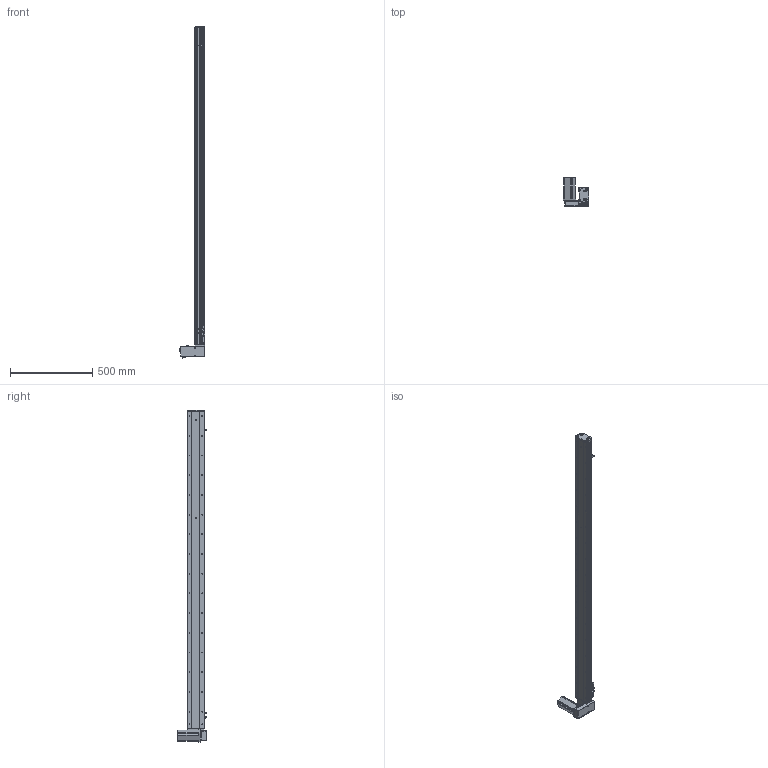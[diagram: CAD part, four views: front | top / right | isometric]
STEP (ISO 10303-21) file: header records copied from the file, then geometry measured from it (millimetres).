
FILE_DESCRIPTION (( 'STEP AP214' ), '1' );
FILE_NAME ('KSD100B-S1750-MRD-CM.STEP', '2019-11-11T08:58:39', ( '微软用户' ), ( '微软中国' ), 'SwSTEP 2.0', 'SolidWorks 2014', '' );
FILE_SCHEMA (( 'AUTOMOTIVE_DESIGN' ));
Length unit declared in the file: millimetre
Products named in the file (12): 悵誘欶奻狟殏; 100宽马达安装板连板上下折丝杆同步带; 台达ECMA－C20604AS伺服电机; U倰嫖萇EEㄜSX672; 覜茼え100遵圉猾敕; 100宽防尘板1750行程-同步带; 100宽马达安装板同步带右; 100宽同步带安装板半封闭; 100宽马达安装板同步带; 100遵傷啣肮祭湍; 100宽底板半封闭同步带1750行程; KSD100B-S1750-MRD-CM
Assembly tree (13 placements, depth 2):
  KSD100B-S1750-MRD-CM
    100宽底板半封闭同步带1750行程
    100遵傷啣肮祭湍
    100宽马达安装板同步带
    100宽同步带安装板半封闭
    100宽马达安装板同步带右
    100宽防尘板1750行程-同步带
    覜茼え100遵圉猾敕
    U倰嫖萇EEㄜSX672  x3
    台达ECMA－C20604AS伺服电机
    100宽马达安装板连板上下折丝杆同步带
    悵誘欶奻狟殏
Bounding box: 156.26 x 174.7 x 2022.26 mm (x, y, z)
Volume: 4186971.2 mm3; surface area: 1433526.1 mm2
Topology: 14 solids, 14 shells, 1691 faces, 4806 edges, 3027 vertices
Faces by surface type: cylinder 885, plane 619, cone 187
Entity records: 62379 total; most frequent: CARTESIAN_POINT 13486, DIRECTION 8390, ORIENTED_EDGE 8144, EDGE_CURVE 4072, AXIS2_PLACEMENT_3D 3093, VERTEX_POINT 2651, VECTOR 2204, LINE 2204
